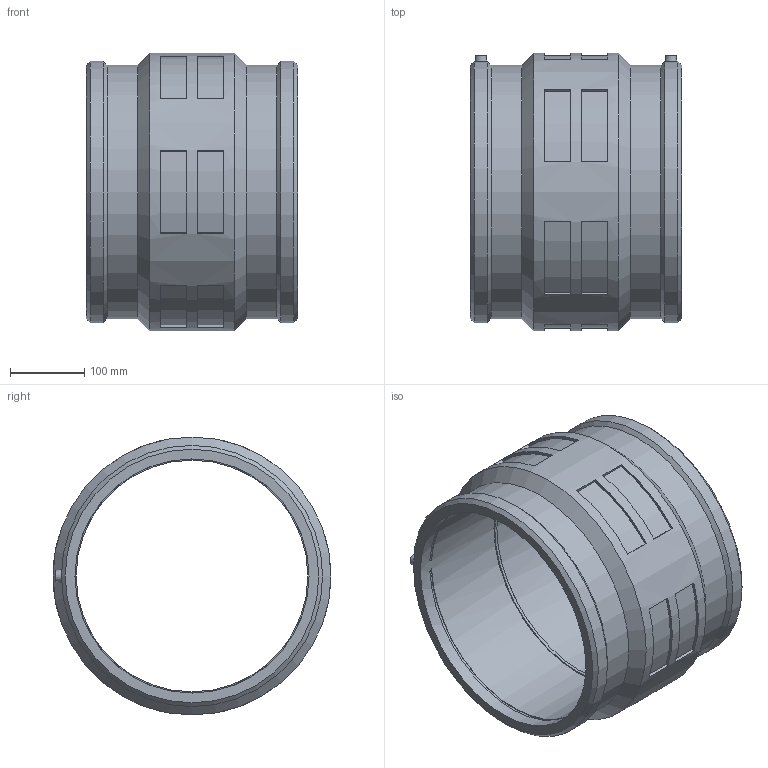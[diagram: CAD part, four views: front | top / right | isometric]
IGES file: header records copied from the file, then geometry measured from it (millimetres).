
Global section: file name: 460104315.ipt; native system: Autodesk Inventor 2015; preprocessor: unknown; author: KIM; date: 20171106.093423; units: millimetre
Bounding box: 284 x 374 x 374 mm (x, y, z)
Volume: 6296753.7 mm3; surface area: 670926.1 mm2
Topology: 1 solids, 1 shells, 98 faces, 238 edges, 158 vertices
Faces by surface type: plane 60, cylinder 19, cone 12, revolution 7
Full cylindrical faces by diameter (mm): 4 x2, 341.013 x2, 351.56 x2, 374 x1
